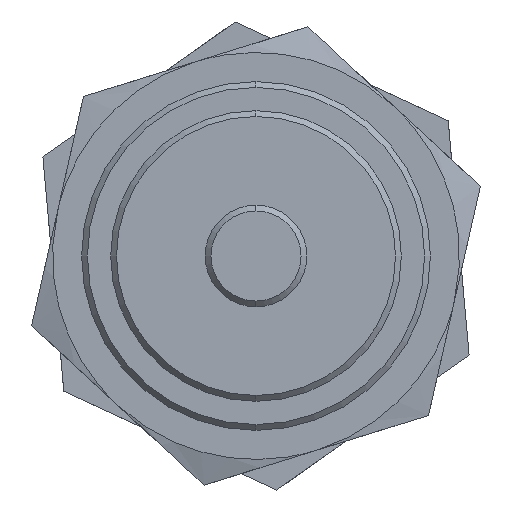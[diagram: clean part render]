
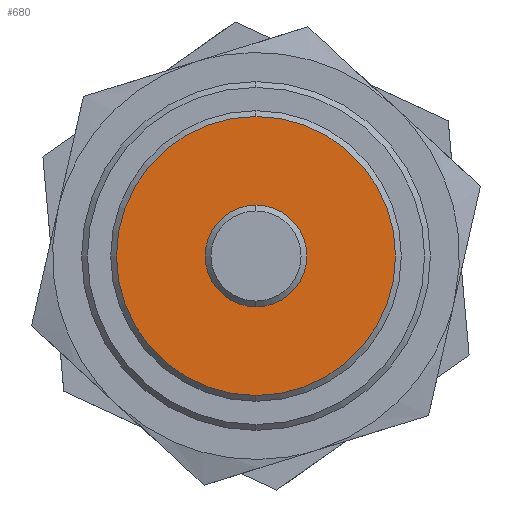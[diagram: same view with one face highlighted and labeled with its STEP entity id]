
A CAD part, left-side view. The second image highlights one B-rep face of the part: STEP entity #680.
In plain terms, the highlighted planar face has unit normal (-1, 0, 0).
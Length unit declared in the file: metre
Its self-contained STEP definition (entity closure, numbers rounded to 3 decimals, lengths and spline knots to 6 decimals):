
#12 = AXIS2_PLACEMENT_3D ( 'NONE', #224, #229, #315 ) ;
#125 = AXIS2_PLACEMENT_3D ( 'NONE', #949, #725, #1402 ) ;
#133 = EDGE_CURVE ( 'NONE', #1149, #1236, #807, .T. ) ;
#137 = FACE_OUTER_BOUND ( 'NONE', #1394, .T. ) ;
#165 = CARTESIAN_POINT ( 'NONE',  ( 0.01, 0., 0. ) ) ;
#224 = CARTESIAN_POINT ( 'NONE',  ( 0.01, 0., 0. ) ) ;
#229 = DIRECTION ( 'NONE',  ( -1., 0., 0. ) ) ;
#296 = DIRECTION ( 'NONE',  ( -1., 0., 0. ) ) ;
#302 = EDGE_CURVE ( 'NONE', #796, #492, #458, .T. ) ;
#315 = DIRECTION ( 'NONE',  ( 0., 0., -1. ) ) ;
#334 = ORIENTED_EDGE ( 'NONE', *, *, #537, .T. ) ;
#342 = EDGE_LOOP ( 'NONE', ( #1167, #1164 ) ) ;
#458 = CIRCLE ( 'NONE', #604, 0.00175 ) ;
#492 = VERTEX_POINT ( 'NONE', #744 ) ;
#495 = EDGE_CURVE ( 'NONE', #492, #796, #1132, .T. ) ;
#537 = EDGE_CURVE ( 'NONE', #1236, #1149, #568, .T. ) ;
#568 = CIRCLE ( 'NONE', #12, 0.0048 ) ;
#585 = CARTESIAN_POINT ( 'NONE',  ( 0.01, 0., 0.00175 ) ) ;
#604 = AXIS2_PLACEMENT_3D ( 'NONE', #165, #954, #849 ) ;
#680 = ADVANCED_FACE ( 'NONE', ( #1008, #137 ), #1383, .F. ) ;
#710 = CARTESIAN_POINT ( 'NONE',  ( 0.01, -0.004858, 0.004858 ) ) ;
#725 = DIRECTION ( 'NONE',  ( -1., 0., 0. ) ) ;
#744 = CARTESIAN_POINT ( 'NONE',  ( 0.01, 0., -0.00175 ) ) ;
#796 = VERTEX_POINT ( 'NONE', #585 ) ;
#807 = CIRCLE ( 'NONE', #1048, 0.0048 ) ;
#824 = DIRECTION ( 'NONE',  ( 1., 0., 0. ) ) ;
#849 = DIRECTION ( 'NONE',  ( 0., 0., 1. ) ) ;
#909 = ORIENTED_EDGE ( 'NONE', *, *, #133, .T. ) ;
#949 = CARTESIAN_POINT ( 'NONE',  ( 0.01, 0., 0. ) ) ;
#954 = DIRECTION ( 'NONE',  ( -1., 0., 0. ) ) ;
#978 = DIRECTION ( 'NONE',  ( 0., 0., -1. ) ) ;
#1002 = CARTESIAN_POINT ( 'NONE',  ( 0.01, 0., -0.0048 ) ) ;
#1008 = FACE_BOUND ( 'NONE', #342, .T. ) ;
#1048 = AXIS2_PLACEMENT_3D ( 'NONE', #1099, #296, #978 ) ;
#1099 = CARTESIAN_POINT ( 'NONE',  ( 0.01, 0., 0. ) ) ;
#1132 = CIRCLE ( 'NONE', #125, 0.00175 ) ;
#1136 = AXIS2_PLACEMENT_3D ( 'NONE', #710, #824, #1283 ) ;
#1149 = VERTEX_POINT ( 'NONE', #1419 ) ;
#1164 = ORIENTED_EDGE ( 'NONE', *, *, #495, .F. ) ;
#1167 = ORIENTED_EDGE ( 'NONE', *, *, #302, .F. ) ;
#1236 = VERTEX_POINT ( 'NONE', #1002 ) ;
#1283 = DIRECTION ( 'NONE',  ( 0., 0., -1. ) ) ;
#1383 = PLANE ( 'NONE',  #1136 ) ;
#1394 = EDGE_LOOP ( 'NONE', ( #334, #909 ) ) ;
#1402 = DIRECTION ( 'NONE',  ( 0., 0., 1. ) ) ;
#1419 = CARTESIAN_POINT ( 'NONE',  ( 0.01, 0., 0.0048 ) ) ;
